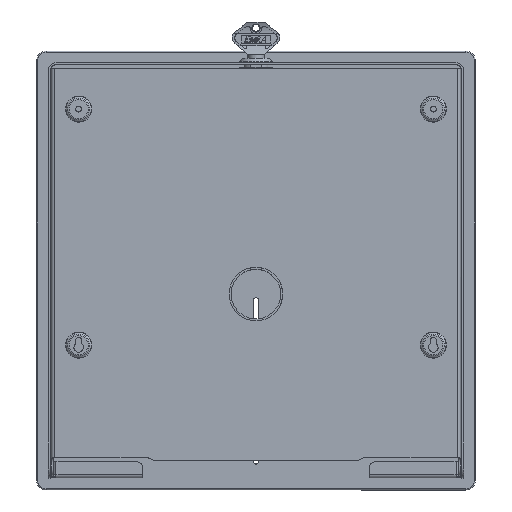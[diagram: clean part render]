
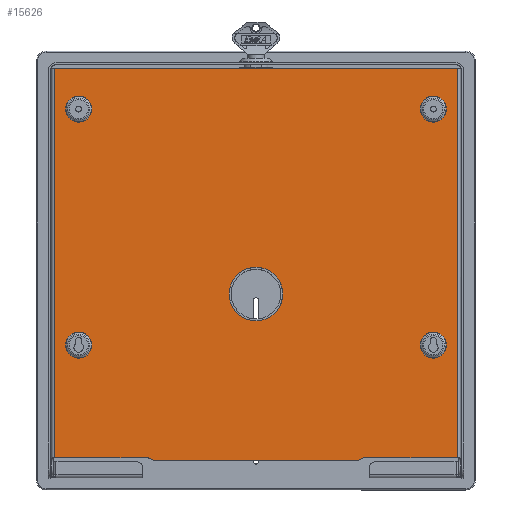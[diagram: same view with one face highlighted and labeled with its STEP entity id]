
A CAD part, top view. The second image highlights one B-rep face of the part: STEP entity #15626.
In plain terms, the highlighted planar face has unit normal (0, 0, 1) as drawn and (0, 1, 0) by its records, which use the part's own axes.
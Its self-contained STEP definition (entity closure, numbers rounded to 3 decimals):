
#641=PLANE('',#16644);
#1308=LINE('',#22607,#3025);
#1317=LINE('',#22640,#3034);
#1320=LINE('',#22647,#3037);
#1321=LINE('',#22651,#3038);
#1322=LINE('',#22653,#3039);
#1323=LINE('',#22655,#3040);
#3025=VECTOR('',#18222,78.071);
#3034=VECTOR('',#18253,77.929);
#3037=VECTOR('',#18262,171.47);
#3038=VECTOR('',#18265,328.009);
#3039=VECTOR('',#18266,340.);
#3040=VECTOR('',#18267,328.009);
#4724=FACE_BOUND('',#5830,.T.);
#4725=FACE_BOUND('',#5831,.T.);
#4726=FACE_BOUND('',#5832,.T.);
#4727=FACE_BOUND('',#5833,.T.);
#4728=FACE_BOUND('',#5834,.T.);
#4898=FACE_OUTER_BOUND('',#5829,.T.);
#5829=EDGE_LOOP('',(#11159,#11160,#11161,#11162,#11163,#11164,#11165,#11166,
#11167,#11168,#11169,#11170));
#5830=EDGE_LOOP('',(#11171));
#5831=EDGE_LOOP('',(#11172));
#5832=EDGE_LOOP('',(#11173));
#5833=EDGE_LOOP('',(#11174));
#5834=EDGE_LOOP('',(#11175));
#6735=CIRCLE('',#16462,22.65);
#6794=CIRCLE('',#16558,11.);
#6802=CIRCLE('',#16574,11.);
#6812=CIRCLE('',#16593,11.);
#6820=CIRCLE('',#16609,11.);
#6830=CIRCLE('',#16628,5.);
#6832=CIRCLE('',#16632,5.);
#6838=CIRCLE('',#16640,5.);
#6839=CIRCLE('',#16643,5.);
#6840=CIRCLE('',#16645,4.);
#6841=CIRCLE('',#16646,4.);
#7146=VERTEX_POINT('',#22251);
#7229=VERTEX_POINT('',#22488);
#7237=VERTEX_POINT('',#22512);
#7247=VERTEX_POINT('',#22541);
#7255=VERTEX_POINT('',#22565);
#7265=VERTEX_POINT('',#22594);
#7266=VERTEX_POINT('',#22595);
#7270=VERTEX_POINT('',#22605);
#7271=VERTEX_POINT('',#22609);
#7272=VERTEX_POINT('',#22610);
#7282=VERTEX_POINT('',#22635);
#7283=VERTEX_POINT('',#22639);
#7284=VERTEX_POINT('',#22643);
#7285=VERTEX_POINT('',#22648);
#7286=VERTEX_POINT('',#22650);
#7287=VERTEX_POINT('',#22652);
#7288=VERTEX_POINT('',#22654);
#8622=EDGE_CURVE('',#7146,#7146,#6735,.T.);
#8739=EDGE_CURVE('',#7229,#7229,#6794,.T.);
#8747=EDGE_CURVE('',#7237,#7237,#6802,.T.);
#8757=EDGE_CURVE('',#7247,#7247,#6812,.T.);
#8765=EDGE_CURVE('',#7255,#7255,#6820,.T.);
#8775=EDGE_CURVE('',#7265,#7266,#6830,.F.);
#8781=EDGE_CURVE('',#7266,#7270,#1308,.T.);
#8782=EDGE_CURVE('',#7271,#7272,#6832,.T.);
#8795=EDGE_CURVE('',#7272,#7282,#6838,.T.);
#8797=EDGE_CURVE('',#7283,#7282,#1317,.T.);
#8799=EDGE_CURVE('',#7265,#7284,#6839,.T.);
#8801=EDGE_CURVE('',#7284,#7271,#1320,.T.);
#8802=EDGE_CURVE('',#7270,#7285,#6840,.T.);
#8803=EDGE_CURVE('',#7285,#7286,#1321,.T.);
#8804=EDGE_CURVE('',#7287,#7286,#1322,.T.);
#8805=EDGE_CURVE('',#7288,#7287,#1323,.T.);
#8806=EDGE_CURVE('',#7288,#7283,#6841,.T.);
#11159=ORIENTED_EDGE('',*,*,#8782,.F.);
#11160=ORIENTED_EDGE('',*,*,#8801,.F.);
#11161=ORIENTED_EDGE('',*,*,#8799,.F.);
#11162=ORIENTED_EDGE('',*,*,#8775,.T.);
#11163=ORIENTED_EDGE('',*,*,#8781,.T.);
#11164=ORIENTED_EDGE('',*,*,#8802,.T.);
#11165=ORIENTED_EDGE('',*,*,#8803,.T.);
#11166=ORIENTED_EDGE('',*,*,#8804,.F.);
#11167=ORIENTED_EDGE('',*,*,#8805,.F.);
#11168=ORIENTED_EDGE('',*,*,#8806,.T.);
#11169=ORIENTED_EDGE('',*,*,#8797,.T.);
#11170=ORIENTED_EDGE('',*,*,#8795,.F.);
#11171=ORIENTED_EDGE('',*,*,#8622,.T.);
#11172=ORIENTED_EDGE('',*,*,#8739,.F.);
#11173=ORIENTED_EDGE('',*,*,#8747,.F.);
#11174=ORIENTED_EDGE('',*,*,#8757,.F.);
#11175=ORIENTED_EDGE('',*,*,#8765,.F.);
#15626=ADVANCED_FACE('',(#4898,#4724,#4725,#4726,#4727,#4728),#641,.F.);
#16462=AXIS2_PLACEMENT_3D('',#22252,#17822,#17823);
#16558=AXIS2_PLACEMENT_3D('',#22489,#18072,#18073);
#16574=AXIS2_PLACEMENT_3D('',#22513,#18104,#18105);
#16593=AXIS2_PLACEMENT_3D('',#22542,#18142,#18143);
#16609=AXIS2_PLACEMENT_3D('',#22566,#18174,#18175);
#16628=AXIS2_PLACEMENT_3D('',#22596,#18212,#18213);
#16632=AXIS2_PLACEMENT_3D('',#22611,#18225,#18226);
#16640=AXIS2_PLACEMENT_3D('',#22636,#18248,#18249);
#16643=AXIS2_PLACEMENT_3D('',#22644,#18257,#18258);
#16644=AXIS2_PLACEMENT_3D('',#22646,#18260,#18261);
#16645=AXIS2_PLACEMENT_3D('',#22649,#18263,#18264);
#16646=AXIS2_PLACEMENT_3D('',#22656,#18268,#18269);
#17822=DIRECTION('center_axis',(0.,-1.,0.));
#17823=DIRECTION('ref_axis',(-1.,0.,0.));
#18072=DIRECTION('center_axis',(0.,1.,0.));
#18073=DIRECTION('ref_axis',(1.,0.,0.));
#18104=DIRECTION('center_axis',(0.,1.,0.));
#18105=DIRECTION('ref_axis',(1.,0.,0.));
#18142=DIRECTION('center_axis',(0.,1.,0.));
#18143=DIRECTION('ref_axis',(1.,0.,0.));
#18174=DIRECTION('center_axis',(0.,1.,0.));
#18175=DIRECTION('ref_axis',(1.,0.,0.));
#18212=DIRECTION('center_axis',(0.,1.,0.));
#18213=DIRECTION('ref_axis',(0.,0.,-1.));
#18222=DIRECTION('',(-1.,0.,0.));
#18225=DIRECTION('center_axis',(0.,-1.,0.));
#18226=DIRECTION('ref_axis',(0.,0.,1.));
#18248=DIRECTION('center_axis',(0.,1.,0.));
#18249=DIRECTION('ref_axis',(-0.383,0.,0.924));
#18253=DIRECTION('',(-1.,0.,0.));
#18257=DIRECTION('center_axis',(0.,-1.,0.));
#18258=DIRECTION('ref_axis',(-0.383,0.,-0.924));
#18260=DIRECTION('center_axis',(0.,-1.,0.));
#18261=DIRECTION('ref_axis',(0.,0.,-1.));
#18262=DIRECTION('',(1.,0.,0.));
#18263=DIRECTION('center_axis',(0.,-1.,0.));
#18264=DIRECTION('ref_axis',(-1.,0.,0.));
#18265=DIRECTION('',(0.,0.,1.));
#18266=DIRECTION('',(-1.,0.,0.));
#18267=DIRECTION('',(0.,0.,1.));
#18268=DIRECTION('center_axis',(0.,-1.,0.));
#18269=DIRECTION('ref_axis',(0.,0.,1.));
#22251=CARTESIAN_POINT('',(22.721,0.,-25.));
#22252=CARTESIAN_POINT('Origin',(0.071,0.,
-25.));
#22488=CARTESIAN_POINT('',(-149.5,0.,-79.));
#22489=CARTESIAN_POINT('Origin',(-149.5,0.,-68.));
#22512=CARTESIAN_POINT('',(-149.5,0.,120.));
#22513=CARTESIAN_POINT('Origin',(-149.5,0.,131.));
#22541=CARTESIAN_POINT('',(149.5,0.,-79.));
#22542=CARTESIAN_POINT('Origin',(149.5,0.,-68.));
#22565=CARTESIAN_POINT('',(149.5,0.,120.));
#22566=CARTESIAN_POINT('Origin',(149.5,0.,131.));
#22594=CARTESIAN_POINT('',(-88.664,0.,-164.));
#22595=CARTESIAN_POINT('',(-91.664,0.,-163.));
#22596=CARTESIAN_POINT('Origin',(-91.664,0.,
-168.));
#22605=CARTESIAN_POINT('',(-169.735,0.,-163.));
#22607=CARTESIAN_POINT('',(-84.868,0.,-163.));
#22609=CARTESIAN_POINT('',(85.806,0.,-165.));
#22610=CARTESIAN_POINT('',(88.806,0.,-164.));
#22611=CARTESIAN_POINT('Origin',(85.806,0.,-160.));
#22635=CARTESIAN_POINT('',(91.806,0.,-163.));
#22636=CARTESIAN_POINT('Origin',(91.806,0.,-168.));
#22639=CARTESIAN_POINT('',(169.735,0.,-163.));
#22640=CARTESIAN_POINT('',(44.868,0.,-163.));
#22643=CARTESIAN_POINT('',(-85.664,0.,-165.));
#22644=CARTESIAN_POINT('Origin',(-85.664,0.,
-160.));
#22646=CARTESIAN_POINT('Origin',(0.,0.,
0.));
#22647=CARTESIAN_POINT('',(172.235,0.,-165.));
#22648=CARTESIAN_POINT('',(-170.,0.,-163.009));
#22649=CARTESIAN_POINT('Origin',(-169.735,0.,-167.));
#22650=CARTESIAN_POINT('',(-170.,0.,165.));
#22651=CARTESIAN_POINT('',(-170.,0.,0.));
#22652=CARTESIAN_POINT('',(170.,0.,165.));
#22653=CARTESIAN_POINT('',(-215.136,0.,165.));
#22654=CARTESIAN_POINT('',(170.,0.,-163.009));
#22655=CARTESIAN_POINT('',(170.,0.,0.));
#22656=CARTESIAN_POINT('Origin',(169.735,0.,-167.));
